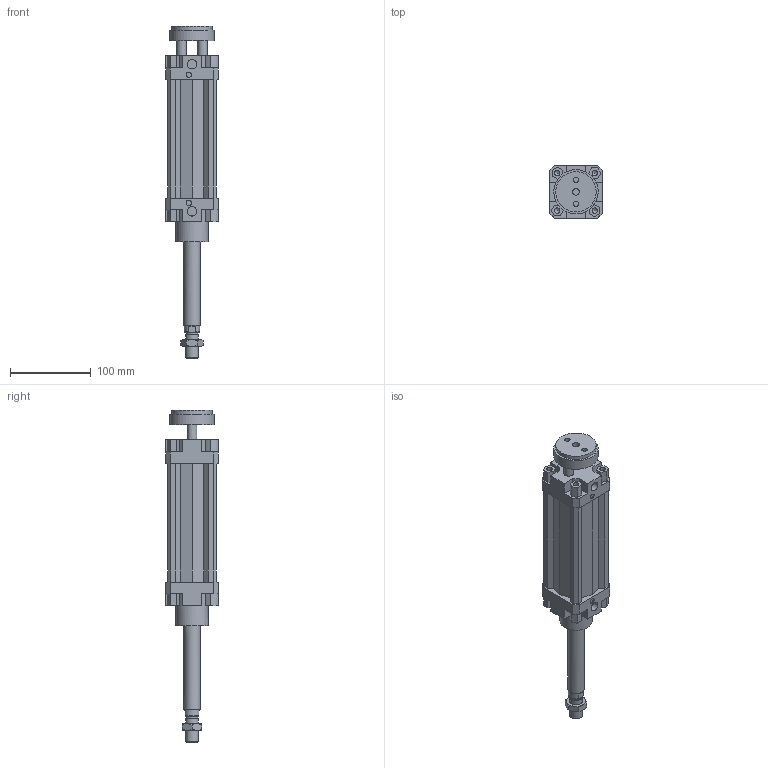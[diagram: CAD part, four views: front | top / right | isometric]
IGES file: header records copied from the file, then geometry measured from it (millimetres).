
Global section: file name: 132#_050_0100_02; native system: Autodesk Inventor 2014; preprocessor: unknown; author: A. Manieri; date: 20161006.155717; units: millimetre
Bounding box: 65 x 65 x 412 mm (x, y, z)
Volume: 601551.7 mm3; surface area: 151721 mm2
Topology: 3 solids, 3 shells, 220 faces, 590 edges, 398 vertices
Faces by surface type: bspline 220
